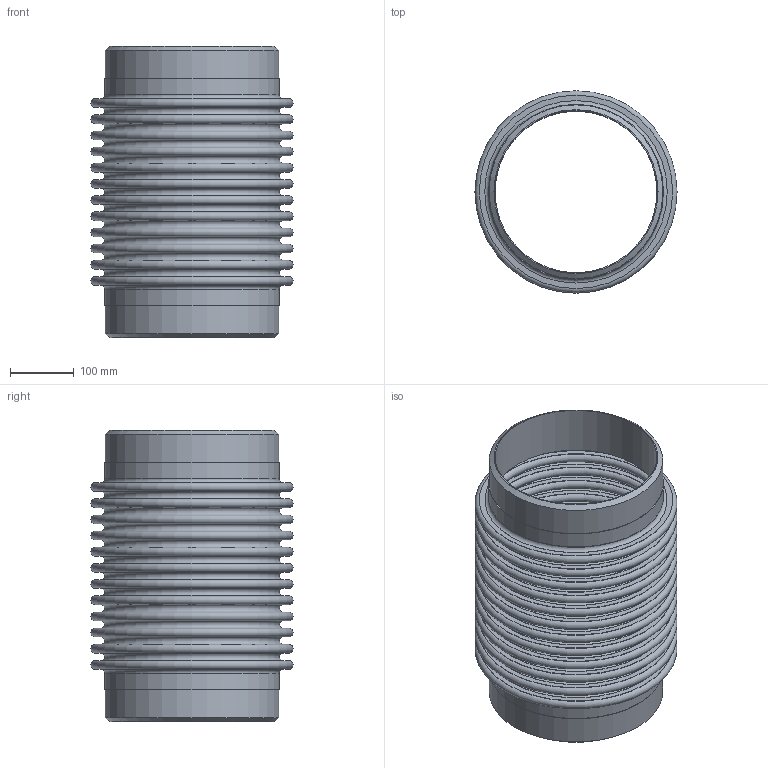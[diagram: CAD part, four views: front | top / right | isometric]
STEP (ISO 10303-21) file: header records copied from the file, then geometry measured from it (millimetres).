
FILE_DESCRIPTION(/* description */ ('EXPANSION JOINT,SINGLE, WELD ENDS,4 INCH NOMINAL'),/* implementation_level */ '2;1');
FILE_NAME(/* name */ 'ASSEMBLY US-10-12-85L.stp',/* time_stamp */ '2026-07-28T16:35:24-05:00',/* author */ ('jorgef'),/* organization */ (''),/* preprocessor_version */ 'ST-DEVELOPER v20.1',/* originating_system */ 'Autodesk Inventor 2026',/* authorisation */ '');
FILE_SCHEMA (('AUTOMOTIVE_DESIGN { 1 0 10303 214 3 1 1 }'));
Length unit declared in the file: inch
Products named in the file (3): ASSEMBLY  US-10-12-85L; STOCK BELLOW - US-10-12-85L; PIPE- US-10-12-85L
Assembly tree (3 placements, depth 2):
  ASSEMBLY  US-10-12-85L
    STOCK BELLOW - US-10-12-85L
    PIPE- US-10-12-85L  x2
Bounding box: 317.5 x 317.5 x 457.2 mm (x, y, z)
Volume: 1754105 mm3; surface area: 1640366 mm2
Topology: 5 solids, 5 shells, 118 faces, 180 edges, 121 vertices
Faces by surface type: plane 58, torus 50, cylinder 8, cone 2
Full cylindrical faces by diameter (mm): 254.508 x2, 273.05 x4, 274.879 x2
Entity records: 2769 total; most frequent: DIRECTION 573, CARTESIAN_POINT 405, ORIENTED_EDGE 342, AXIS2_PLACEMENT_3D 283, EDGE_CURVE 171, EDGE_LOOP 169, CIRCLE 164, VERTEX_POINT 114
